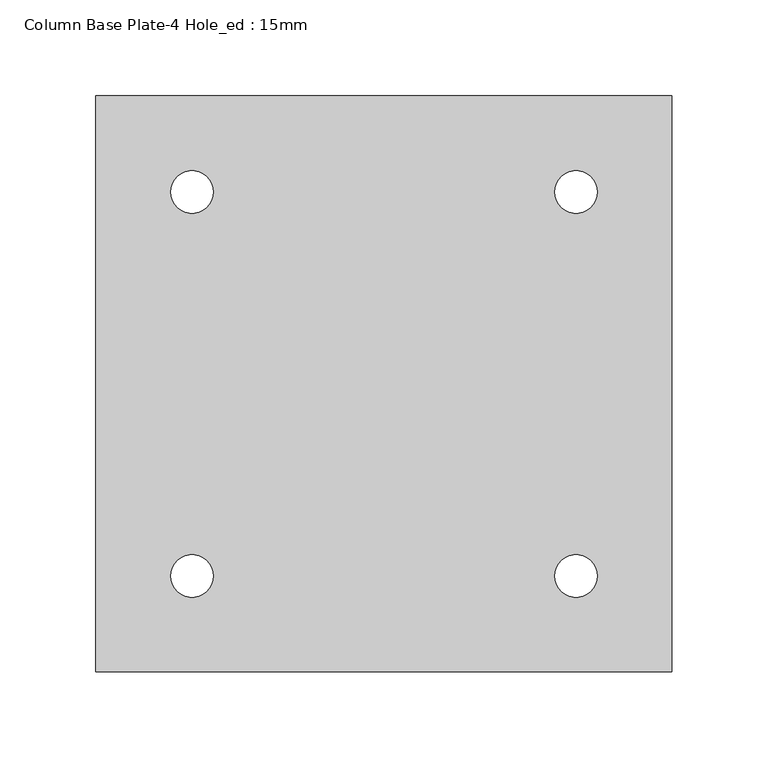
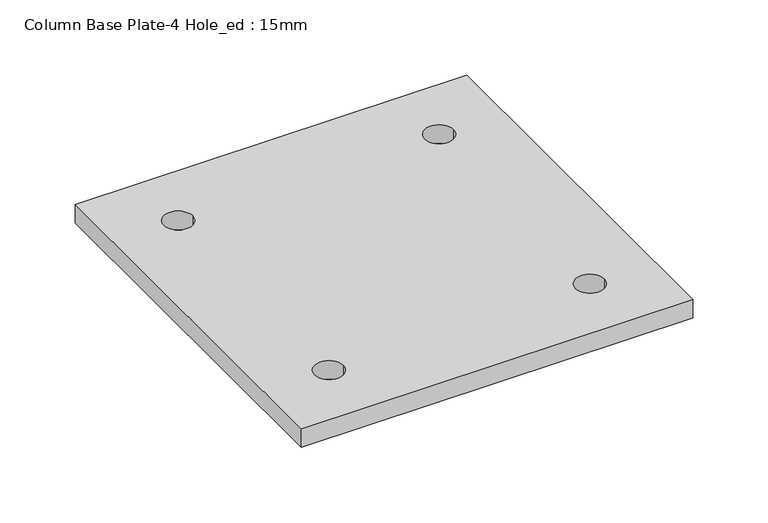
"""IFC4 building model written with IfcOpenShell, lengths in millimetres: fastener geometry, Column Base Plate-4 Hole_ed : 15mm."""

from ifc_helpers import new_model, si_unit, point, frame_2d, origin, origin_with_axes, place, context, project, spatial, polyline, circle_curve, trimmed, segment, composite_curve, outline, extrude, source, transform, mapped, element, save


def column_base_plate_4_hole_ed_15mm_4bd3c540(model_context):
    return source(origin(), model_context, "Body", "SweptSolid", [
        extrude(outline(polyline([(150.0, -150.0), (-150.0, -150.0), (-150.0, 150.0), (150.0, 150.0), (150.0, -150.0)]), holes=[composite_curve([segment(trimmed(circle_curve(frame_2d((-100.0, -100.0)), 11.0), [point((-111.0, -100.0))], [point((-89.0, -100.0))], True, "CARTESIAN"), True, "CONTINUOUS"), segment(trimmed(circle_curve(frame_2d((-100.0, -100.0)), 11.0), [point((-89.0, -100.0))], [point((-111.0, -100.0))], True, "CARTESIAN"), True, "CONTINUOUS")], self_intersect=False), composite_curve([segment(trimmed(circle_curve(frame_2d((100.0, -100.0)), 11.0), [point((89.0, -100.0))], [point((111.0, -100.0))], True, "CARTESIAN"), True, "CONTINUOUS"), segment(trimmed(circle_curve(frame_2d((100.0, -100.0)), 11.0), [point((111.0, -100.0))], [point((89.0, -100.0))], True, "CARTESIAN"), True, "CONTINUOUS")], self_intersect=False), composite_curve([segment(trimmed(circle_curve(frame_2d((-100.0, 100.0)), 11.0), [point((-111.0, 100.0))], [point((-89.0, 100.0))], True, "CARTESIAN"), True, "CONTINUOUS"), segment(trimmed(circle_curve(frame_2d((-100.0, 100.0)), 11.0), [point((-89.0, 100.0))], [point((-111.0, 100.0))], True, "CARTESIAN"), True, "CONTINUOUS")], self_intersect=False), composite_curve([segment(trimmed(circle_curve(frame_2d((100.0, 100.0)), 11.0), [point((89.0, 100.0))], [point((111.0, 100.0))], True, "CARTESIAN"), True, "CONTINUOUS"), segment(trimmed(circle_curve(frame_2d((100.0, 100.0)), 11.0), [point((111.0, 100.0))], [point((89.0, 100.0))], True, "CARTESIAN"), True, "CONTINUOUS")], self_intersect=False)]), origin_with_axes(), (0.0, 0.0, 1.0), 15.0),
    ])


if __name__ == "__main__":
    model = new_model("IFC4")
    model_context = context("Model", 3, world=origin())
    ifc_project = project(units=[si_unit("LENGTHUNIT", "METRE", prefix="MILLI")], contexts=[model_context])
    site = spatial("IfcSite", under=ifc_project)
    building = spatial("IfcBuilding", under=site)
    placement = place(None, origin())
    column_base_plate_4_hole_ed_15mm_shape = column_base_plate_4_hole_ed_15mm_4bd3c540(model_context)
    element("IfcFastener", 1, ObjectType="Column Base Plate-4 Hole_ed : 15mm", at=placement, inside=building, context=model_context, shape_type="MappedRepresentation", body=[
        mapped(column_base_plate_4_hole_ed_15mm_shape, transform((0.0, 0.0, 0.0), x_axis=(1.0, 0.0, 0.0), y_axis=(0.0, 1.0, 0.0), z_axis=(0.0, 0.0, 1.0))),
    ])
    save(model, "model.ifc")
